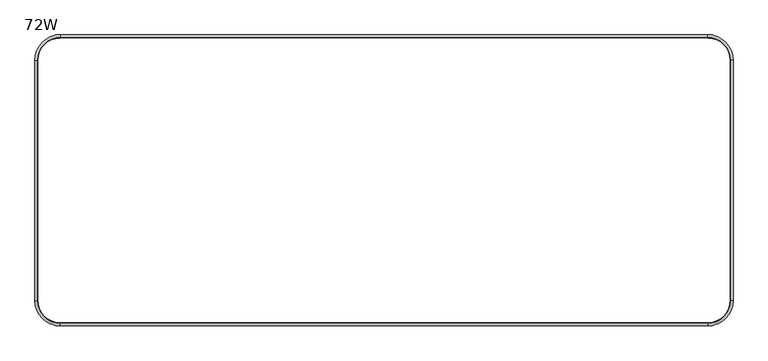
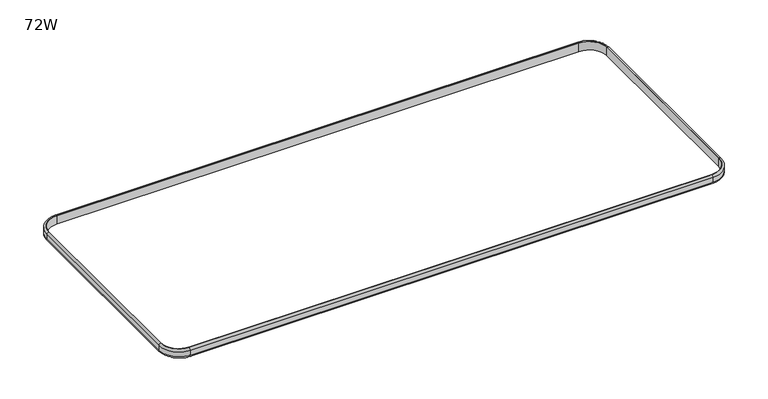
"""IFC4 building model written with IfcOpenShell, lengths in millimetres: furniture geometry, SmithSystem_AM_Table_Education_Interchange_Activity_30D : 72W."""

from ifc_helpers import new_model, si_unit, point, frame, origin, place, context, project, spatial, polyline, circle_curve, ellipse_curve, trimmed, source, transform, mapped, element, save
from ifc_brep_helpers import plane_surface, cylinder_surface, revolved_surface, advanced_brep


def furniture_72w_486bea29(model_context):
    return source(origin(), model_context, "Body", "AdvancedBrep", [
        advanced_brep(
        [(66.04, 0.0, 917.54615), (66.04, 6.35, 911.19615), (1762.76, 6.35, 911.19615), (1762.76, 0.0, 917.54615), (66.04, 0.0, 933.45), (1762.76, 0.0, 933.45), (66.04, 6.35, 939.8), (1762.76, 6.35, 939.8), (66.04, 8.89, 911.19615), (66.04, 8.89, 939.8), (1762.76, 8.89, 939.8), (1762.76, 8.89, 911.19615), (1828.8, 66.04, 917.54615), (1822.45, 66.04, 911.19615), (1828.8, 66.04, 933.45), (1822.45, 66.04, 939.8), (1819.91, 66.04, 911.19615), (1819.91, 66.04, 939.8), (1822.45, 695.957131, 911.19615), (1828.8, 695.957131, 917.54615), (1828.8, 695.957131, 933.45), (1822.45, 695.957131, 939.8), (1819.91, 695.957131, 939.8), (1819.91, 695.957131, 911.19615), (1762.76, 761.997131, 917.54615), (1762.76, 755.647131, 911.19615), (1762.76, 761.997131, 933.45), (1762.76, 755.647131, 939.8), (1762.76, 753.107131, 911.19615), (1762.76, 753.107131, 939.8), (0.0, 695.957131, 917.54615), (66.04, 761.997131, 917.54615), (66.04, 755.647131, 911.19615), (6.35, 695.957131, 911.19615), (0.0, 695.957131, 933.45), (66.04, 761.997131, 933.45), (6.35, 695.957131, 939.8), (66.04, 755.647131, 939.8), (8.89, 695.957131, 911.19615), (66.04, 753.107131, 911.19615), (66.04, 753.107131, 939.8), (8.89, 695.957131, 939.8), (6.35, 66.04, 911.19615), (0.0, 66.04, 917.54615), (0.0, 66.04, 933.45), (6.35, 66.04, 939.8), (8.89, 66.04, 939.8), (8.89, 66.04, 911.19615)],
        [
            (0, 1, circle_curve(frame((66.04, 6.35, 917.54615), z_axis=(1.0, 0.0, 0.0), x_axis=(0.0, 1.0, 0.0)), 6.35)),
            (1, 2),
            (2, 3, circle_curve(frame((1762.76, 6.35, 917.54615), z_axis=(-1.0, 0.0, 0.0), x_axis=(0.0, 1.0, 0.0)), 6.35)),
            (3, 0),
            (4, 0),
            (3, 5),
            (5, 4),
            (6, 4, circle_curve(frame((66.04, 6.35, 933.45), z_axis=(1.0, 0.0, 0.0), x_axis=(0.0, 1.0, 0.0)), 6.35)),
            (5, 7, circle_curve(frame((1762.76, 6.35, 933.45), z_axis=(-1.0, 0.0, 0.0), x_axis=(0.0, 1.0, 0.0)), 6.35)),
            (7, 6),
            (8, 9),
            (9, 10),
            (10, 11),
            (11, 8),
            (12, 3, circle_curve(frame((1762.76, 66.04, 917.54615), z_axis=(0.0, 0.0, -1.0), x_axis=(0.0, -1.0, 0.0)), 66.04)),
            (2, 13, circle_curve(frame((1762.76, 66.04, 911.19615), z_axis=(0.0, 0.0, 1.0), x_axis=(0.0, -1.0, 0.0)), 59.69)),
            (13, 12, circle_curve(frame((1822.45, 66.04, 917.54615), z_axis=(0.0, -1.0, 0.0), x_axis=(-1.0, 0.0, 0.0)), 6.35)),
            (14, 5, circle_curve(frame((1762.76, 66.04, 933.45), z_axis=(0.0, 0.0, -1.0), x_axis=(0.0, -1.0, 0.0)), 66.04)),
            (12, 14),
            (15, 7, circle_curve(frame((1762.76, 66.04, 939.8), z_axis=(0.0, 0.0, -1.0), x_axis=(0.0, -1.0, 0.0)), 59.69)),
            (14, 15, circle_curve(frame((1822.45, 66.04, 933.45), z_axis=(0.0, -1.0, 0.0), x_axis=(-1.0, 0.0, 0.0)), 6.35)),
            (16, 11, circle_curve(frame((1762.76, 66.04, 911.19615), z_axis=(0.0, 0.0, -1.0), x_axis=(0.0, -1.0, 0.0)), 57.15)),
            (10, 17, circle_curve(frame((1762.76, 66.04, 939.8), z_axis=(0.0, 0.0, 1.0), x_axis=(0.0, -1.0, 0.0)), 57.15)),
            (17, 16),
            (13, 18),
            (18, 19, circle_curve(frame((1822.45, 695.957131, 917.54615), z_axis=(0.0, -1.0, 0.0), x_axis=(-1.0, 0.0, 0.0)), 6.35)),
            (19, 12),
            (19, 20),
            (20, 14),
            (20, 21, circle_curve(frame((1822.45, 695.957131, 933.45), z_axis=(0.0, -1.0, 0.0), x_axis=(-1.0, 0.0, 0.0)), 6.35)),
            (21, 15),
            (17, 22),
            (22, 23),
            (23, 16),
            (24, 19, circle_curve(frame((1762.76, 695.957131, 917.54615), z_axis=(0.0, 0.0, -1.0), x_axis=(1.0, 0.0, 0.0)), 66.04)),
            (18, 25, circle_curve(frame((1762.76, 695.957131, 911.19615), z_axis=(0.0, 0.0, 1.0), x_axis=(1.0, 0.0, 0.0)), 59.69)),
            (25, 24, circle_curve(frame((1762.76, 755.647131, 917.54615), z_axis=(1.0, 0.0, 0.0), x_axis=(0.0, -1.0, 0.0)), 6.35)),
            (26, 20, circle_curve(frame((1762.76, 695.957131, 933.45), z_axis=(0.0, 0.0, -1.0), x_axis=(1.0, 0.0, 0.0)), 66.04)),
            (24, 26),
            (27, 21, circle_curve(frame((1762.76, 695.957131, 939.8), z_axis=(0.0, 0.0, -1.0), x_axis=(1.0, 0.0, 0.0)), 59.69)),
            (26, 27, circle_curve(frame((1762.76, 755.647131, 933.45), z_axis=(1.0, 0.0, 0.0), x_axis=(0.0, -1.0, 0.0)), 6.35)),
            (28, 23, circle_curve(frame((1762.76, 695.957131, 911.19615), z_axis=(0.0, 0.0, -1.0), x_axis=(1.0, 0.0, 0.0)), 57.15)),
            (22, 29, circle_curve(frame((1762.76, 695.957131, 939.8), z_axis=(0.0, 0.0, 1.0), x_axis=(1.0, 0.0, 0.0)), 57.15)),
            (29, 28),
            (30, 31, circle_curve(frame((66.04, 695.957131, 917.54615), z_axis=(0.0, 0.0, -1.0), x_axis=(0.0, 1.0, 0.0)), 66.04)),
            (31, 32, circle_curve(frame((66.04, 755.647131, 917.54615), z_axis=(-1.0, 0.0, 0.0), x_axis=(0.0, -1.0, 0.0)), 6.35)),
            (32, 33, circle_curve(frame((66.04, 695.957131, 911.19615), z_axis=(0.0, 0.0, 1.0), x_axis=(0.0, 1.0, 0.0)), 59.69)),
            (33, 30, circle_curve(frame((6.35, 695.957131, 917.54615), z_axis=(0.0, 1.0, 0.0), x_axis=(1.0, 0.0, 0.0)), 6.35)),
            (34, 35, circle_curve(frame((66.04, 695.957131, 933.45), z_axis=(0.0, 0.0, -1.0), x_axis=(0.0, 1.0, 0.0)), 66.04)),
            (35, 31),
            (30, 34),
            (36, 37, circle_curve(frame((66.04, 695.957131, 939.8), z_axis=(0.0, 0.0, -1.0), x_axis=(0.0, 1.0, 0.0)), 59.69)),
            (37, 35, circle_curve(frame((66.04, 755.647131, 933.45), z_axis=(-1.0, 0.0, 0.0), x_axis=(0.0, -1.0, 0.0)), 6.35)),
            (34, 36, circle_curve(frame((6.35, 695.957131, 933.45), z_axis=(0.0, 1.0, 0.0), x_axis=(1.0, 0.0, 0.0)), 6.35)),
            (38, 39, circle_curve(frame((66.04, 695.957131, 911.19615), z_axis=(0.0, 0.0, -1.0), x_axis=(0.0, 1.0, 0.0)), 57.15)),
            (39, 40),
            (40, 41, circle_curve(frame((66.04, 695.957131, 939.8), z_axis=(0.0, 0.0, 1.0), x_axis=(0.0, 1.0, 0.0)), 57.15)),
            (41, 38),
            (33, 42),
            (42, 43, circle_curve(frame((6.35, 66.04, 917.54615), z_axis=(0.0, 1.0, 0.0), x_axis=(1.0, 0.0, 0.0)), 6.35)),
            (43, 30),
            (43, 44),
            (44, 34),
            (44, 45, circle_curve(frame((6.35, 66.04, 933.45), z_axis=(0.0, 1.0, 0.0), x_axis=(1.0, 0.0, 0.0)), 6.35)),
            (45, 36),
            (41, 46),
            (46, 47),
            (47, 38),
            (0, 43, circle_curve(frame((66.04, 66.04, 917.54615), z_axis=(0.0, 0.0, -1.0), x_axis=(-1.0, 0.0, 0.0)), 66.04)),
            (42, 1, circle_curve(frame((66.04, 66.04, 911.19615), z_axis=(0.0, 0.0, 1.0), x_axis=(-1.0, 0.0, 0.0)), 59.69)),
            (4, 44, circle_curve(frame((66.04, 66.04, 933.45), z_axis=(0.0, 0.0, -1.0), x_axis=(-1.0, 0.0, 0.0)), 66.04)),
            (6, 45, circle_curve(frame((66.04, 66.04, 939.8), z_axis=(0.0, 0.0, -1.0), x_axis=(-1.0, 0.0, 0.0)), 59.69)),
            (8, 47, circle_curve(frame((66.04, 66.04, 911.19615), z_axis=(0.0, 0.0, -1.0), x_axis=(-1.0, 0.0, 0.0)), 57.15)),
            (46, 9, circle_curve(frame((66.04, 66.04, 939.8), z_axis=(0.0, 0.0, 1.0), x_axis=(-1.0, 0.0, 0.0)), 57.15)),
            (32, 25),
            (28, 39),
            (31, 24),
            (35, 26),
            (37, 27),
            (40, 29),
        ],
        [
            cylinder_surface(frame((66.04, 6.35, 917.54615), z_axis=(-1.0, 0.0, 0.0), x_axis=(0.0, 1.0, 0.0)), 6.35),
            plane_surface(frame((66.04, 0.0, 917.54615), z_axis=(0.0, -1.0, 0.0), x_axis=(1.0, 0.0, 0.0))),
            cylinder_surface(frame((66.04, 6.35, 933.45), z_axis=(-1.0, 0.0, 0.0), x_axis=(0.0, 1.0, 0.0)), 6.35),
            plane_surface(frame((66.04, 8.89, 939.8), z_axis=(0.0, 1.0, 0.0), x_axis=(1.0, 0.0, 0.0))),
            revolved_surface(trimmed(ellipse_curve(frame((1762.76, 6.35, 917.54615), z_axis=(-1.0, 0.0, 0.0), x_axis=(0.0, 1.0, 0.0)), 6.35, 6.35), [point((1762.76, 6.35, 911.19615))], [point((1762.76, 0.0, 917.54615))], True, "CARTESIAN"), (1762.76, 66.04, 0.0), (0.0, 0.0, 1.0)),
            cylinder_surface(frame((1762.76, 66.04, 0.0), z_axis=(0.0, 0.0, 1.0), x_axis=(0.0, -1.0, 0.0)), 66.04),
            revolved_surface(trimmed(ellipse_curve(frame((1762.76, 6.35, 933.45), z_axis=(-1.0, 0.0, 0.0), x_axis=(0.0, 1.0, 0.0)), 6.35, 6.35), [point((1762.76, 0.0, 933.45))], [point((1762.76, 6.35, 939.8))], True, "CARTESIAN"), (1762.76, 66.04, 0.0), (0.0, 0.0, 1.0)),
            revolved_surface(polyline([(1762.76, 8.890000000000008, 939.8), (1762.76, 8.890000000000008, 911.19615)]), (1762.76, 66.04, 0.0), (0.0, 0.0, 1.0)),
            cylinder_surface(frame((1822.45, 66.04, 917.54615), z_axis=(0.0, -1.0, 0.0), x_axis=(-1.0, 0.0, 0.0)), 6.35),
            plane_surface(frame((1828.8, 66.04, 917.54615), z_axis=(1.0, 0.0, 0.0), x_axis=(0.0, 1.0, 0.0))),
            cylinder_surface(frame((1822.45, 66.04, 933.45), z_axis=(0.0, -1.0, 0.0), x_axis=(-1.0, 0.0, 0.0)), 6.35),
            plane_surface(frame((1819.91, 66.04, 939.8), z_axis=(-1.0, 0.0, 0.0), x_axis=(0.0, 1.0, 0.0))),
            revolved_surface(trimmed(ellipse_curve(frame((1822.45, 695.957131, 917.54615), z_axis=(0.0, -1.0, 0.0), x_axis=(-1.0, 0.0, 0.0)), 6.35, 6.35), [point((1822.45, 695.957131, 911.19615))], [point((1828.8, 695.957131, 917.54615))], True, "CARTESIAN"), (1762.76, 695.957131, 0.0), (0.0, 0.0, 1.0)),
            cylinder_surface(frame((1762.76, 695.957131, 0.0), z_axis=(0.0, 0.0, 1.0), x_axis=(1.0, 0.0, 0.0)), 66.04),
            revolved_surface(trimmed(ellipse_curve(frame((1822.45, 695.957131, 933.45), z_axis=(0.0, -1.0, 0.0), x_axis=(-1.0, 0.0, 0.0)), 6.35, 6.35), [point((1828.8, 695.957131, 933.45))], [point((1822.45, 695.957131, 939.8))], True, "CARTESIAN"), (1762.76, 695.957131, 0.0), (0.0, 0.0, 1.0)),
            revolved_surface(polyline([(1819.91, 695.957131, 939.8), (1819.91, 695.957131, 911.19615)]), (1762.76, 695.957131, 0.0), (0.0, 0.0, 1.0)),
            revolved_surface(trimmed(ellipse_curve(frame((66.04, 755.647131, 917.54615), z_axis=(1.0, 0.0, 0.0), x_axis=(0.0, -1.0, 0.0)), 6.35, 6.35), [point((66.04, 755.647131, 911.19615))], [point((66.04, 761.997131, 917.54615))], True, "CARTESIAN"), (66.04, 695.957131, 0.0), (0.0, 0.0, 1.0)),
            cylinder_surface(frame((66.04, 695.957131, 0.0), z_axis=(0.0, 0.0, 1.0), x_axis=(0.0, 1.0, 0.0)), 66.04),
            revolved_surface(trimmed(ellipse_curve(frame((66.04, 755.647131, 933.45), z_axis=(1.0, 0.0, 0.0), x_axis=(0.0, -1.0, 0.0)), 6.35, 6.35), [point((66.04, 761.997131, 933.45))], [point((66.04, 755.647131, 939.8))], True, "CARTESIAN"), (66.04, 695.957131, 0.0), (0.0, 0.0, 1.0)),
            revolved_surface(polyline([(66.04, 753.107131, 939.8), (66.04, 753.107131, 911.19615)]), (66.04, 695.957131, 0.0), (0.0, 0.0, 1.0)),
            cylinder_surface(frame((6.35, 695.957131, 917.54615), z_axis=(0.0, 1.0, 0.0), x_axis=(1.0, 0.0, 0.0)), 6.35),
            plane_surface(frame((0.0, 695.957131, 917.54615), z_axis=(-1.0, 0.0, 0.0), x_axis=(0.0, -1.0, 0.0))),
            cylinder_surface(frame((6.35, 695.957131, 933.45), z_axis=(0.0, 1.0, 0.0), x_axis=(1.0, 0.0, 0.0)), 6.35),
            plane_surface(frame((8.89, 695.957131, 939.8), z_axis=(1.0, 0.0, 0.0), x_axis=(0.0, -1.0, 0.0))),
            revolved_surface(trimmed(ellipse_curve(frame((6.35, 66.04, 917.54615), z_axis=(0.0, 1.0, 0.0), x_axis=(1.0, 0.0, 0.0)), 6.35, 6.35), [point((6.35, 66.04, 911.19615))], [point((0.0, 66.04, 917.54615))], True, "CARTESIAN"), (66.04, 66.04, 0.0), (0.0, 0.0, 1.0)),
            cylinder_surface(frame((66.04, 66.04, 0.0), z_axis=(0.0, 0.0, 1.0), x_axis=(-1.0, 0.0, 0.0)), 66.04),
            revolved_surface(trimmed(ellipse_curve(frame((6.35, 66.04, 933.45), z_axis=(0.0, 1.0, 0.0), x_axis=(1.0, 0.0, 0.0)), 6.35, 6.35), [point((0.0, 66.04, 933.45))], [point((6.35, 66.04, 939.8))], True, "CARTESIAN"), (66.04, 66.04, 0.0), (0.0, 0.0, 1.0)),
            revolved_surface(polyline([(8.890000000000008, 66.04, 939.8), (8.890000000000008, 66.04, 911.19615)]), (66.04, 66.04, 0.0), (0.0, 0.0, 1.0)),
            plane_surface(frame((1762.76, 753.107131, 911.19615), z_axis=(0.0, 0.0, -1.0), x_axis=(-1.0, 0.0, 0.0))),
            cylinder_surface(frame((1762.76, 755.647131, 917.54615), z_axis=(1.0, 0.0, 0.0), x_axis=(0.0, -1.0, 0.0)), 6.35),
            plane_surface(frame((1762.76, 761.997131, 917.54615), z_axis=(0.0, 1.0, 0.0), x_axis=(-1.0, 0.0, 0.0))),
            cylinder_surface(frame((1762.76, 755.647131, 933.45), z_axis=(1.0, 0.0, 0.0), x_axis=(0.0, -1.0, 0.0)), 6.35),
            plane_surface(frame((1762.76, 755.647131, 939.8), z_axis=(0.0, 0.0, 1.0), x_axis=(-1.0, 0.0, 0.0))),
            plane_surface(frame((1762.76, 753.107131, 939.8), z_axis=(0.0, -1.0, 0.0), x_axis=(-1.0, 0.0, 0.0))),
        ],
        [
            (0, [[1, 2, 3, 4]]),
            (1, [[5, -4, 6, 7]]),
            (2, [[8, -7, 9, 10]]),
            (3, [[11, 12, 13, 14]]),
            (4, [[15, -3, 16, 17]]),
            (5, [[18, -6, -15, 19]]),
            (6, [[20, -9, -18, 21]]),
            (7, [[22, -13, 23, 24]]),
            (8, [[-17, 25, 26, 27]]),
            (9, [[-19, -27, 28, 29]]),
            (10, [[-21, -29, 30, 31]]),
            (11, [[-24, 32, 33, 34]]),
            (12, [[35, -26, 36, 37]]),
            (13, [[38, -28, -35, 39]]),
            (14, [[40, -30, -38, 41]]),
            (15, [[42, -33, 43, 44]]),
            (16, [[45, 46, 47, 48]]),
            (17, [[49, 50, -45, 51]]),
            (18, [[52, 53, -49, 54]]),
            (19, [[55, 56, 57, 58]]),
            (20, [[-48, 59, 60, 61]]),
            (21, [[-51, -61, 62, 63]]),
            (22, [[-54, -63, 64, 65]]),
            (23, [[-58, 66, 67, 68]]),
            (24, [[69, -60, 70, -1]]),
            (25, [[71, -62, -69, -5]]),
            (26, [[72, -64, -71, -8]]),
            (27, [[73, -67, 74, -11]]),
            (28, [[75, -36, -25, -16, -2, -70, -59, -47], [-68, -73, -14, -22, -34, -42, 76, -55]]),
            (29, [[-37, -75, -46, 77]]),
            (30, [[-39, -77, -50, 78]]),
            (31, [[-41, -78, -53, 79]]),
            (32, [[-65, -72, -10, -20, -31, -40, -79, -52], [80, -43, -32, -23, -12, -74, -66, -57]]),
            (33, [[-44, -80, -56, -76]]),
        ],
    ),
    ])


if __name__ == "__main__":
    model = new_model("IFC4")
    model_context = context("Model", 3, world=origin())
    ifc_project = project(units=[si_unit("LENGTHUNIT", "METRE", prefix="MILLI")], contexts=[model_context])
    site = spatial("IfcSite", under=ifc_project)
    building = spatial("IfcBuilding", under=site)
    placement = place(None, origin())
    furniture_72w_shape = furniture_72w_486bea29(model_context)
    element("IfcFurniture", 1, ObjectType="SmithSystem_AM_Table_Education_Interchange_Activity_30D : 72W", at=placement, inside=building, context=model_context, shape_type="MappedRepresentation", body=[
        mapped(furniture_72w_shape, transform((0.0, 0.0, 0.0), x_axis=(1.0, 0.0, 0.0), y_axis=(0.0, 1.0, 0.0), z_axis=(0.0, 0.0, 1.0))),
    ])
    save(model, "model.ifc")
